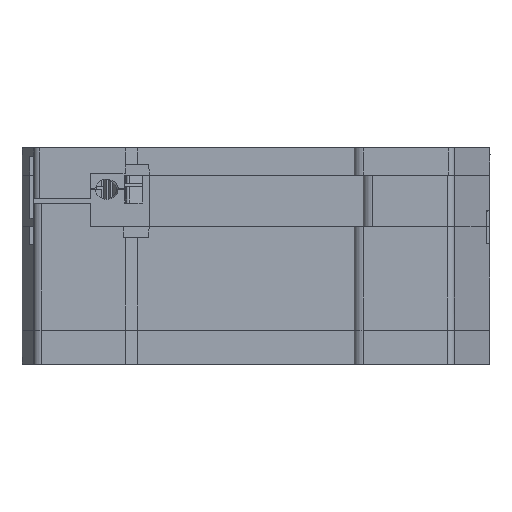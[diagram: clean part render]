
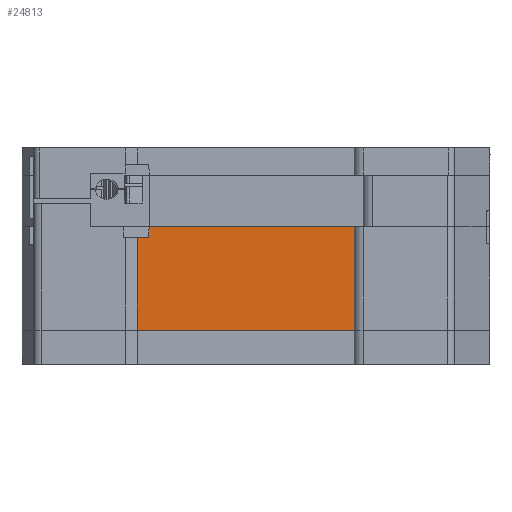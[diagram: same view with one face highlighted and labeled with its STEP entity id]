
A CAD part, front view. The second image highlights one B-rep face of the part: STEP entity #24813.
In plain terms, the highlighted planar face has unit normal (0, -1, 0).
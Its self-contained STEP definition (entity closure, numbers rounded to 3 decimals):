
#12513 = CARTESIAN_POINT ( 'NONE',  ( -37.344, -90.812, -17.1 ) ) ;
#12971 = CARTESIAN_POINT ( 'NONE',  ( -72.744, -90.812, -1.8 ) ) ;
#13147 = CARTESIAN_POINT ( 'NONE',  ( -37.344, -90.812, 0. ) ) ;
#13169 = CARTESIAN_POINT ( 'NONE',  ( -72.691, -90.812, 0. ) ) ;
#15926 = LINE ( 'NONE', #15928, #61453 ) ;
#15928 = CARTESIAN_POINT ( 'NONE',  ( -74.644, -90.812, -17.1 ) ) ;
#15932 = DIRECTION ( 'NONE',  ( -1., 0., 0. ) ) ;
#16844 = LINE ( 'NONE', #16858, #61140 ) ;
#16849 = LINE ( 'NONE', #16851, #61141 ) ;
#16851 = CARTESIAN_POINT ( 'NONE',  ( -74.644, -90.812, -3. ) ) ;
#16852 = DIRECTION ( 'NONE',  ( 0., 0., 1. ) ) ;
#16855 = LINE ( 'NONE', #16856, #61139 ) ;
#16856 = CARTESIAN_POINT ( 'NONE',  ( -37.344, -90.812, -3. ) ) ;
#16857 = DIRECTION ( 'NONE',  ( 0., 0., 1. ) ) ;
#16858 = CARTESIAN_POINT ( 'NONE',  ( -74.644, -90.812, 0. ) ) ;
#16859 = DIRECTION ( 'NONE',  ( -1., 0., 0. ) ) ;
#16860 = LINE ( 'NONE', #16861, #61137 ) ;
#16861 = CARTESIAN_POINT ( 'NONE',  ( -72.691, -90.812, 0. ) ) ;
#16862 = DIRECTION ( 'NONE',  ( -0.029, 0., -1. ) ) ;
#16863 = LINE ( 'NONE', #16864, #61136 ) ;
#16864 = CARTESIAN_POINT ( 'NONE',  ( -74.644, -90.812, -1.8 ) ) ;
#16865 = DIRECTION ( 'NONE',  ( -1., 0., 0. ) ) ;
#19790 = AXIS2_PLACEMENT_3D ( 'NONE', #55641, #55638, #55646 ) ;
#24813 = ADVANCED_FACE ( 'NONE', ( #55643 ), #55644, .T. ) ;
#25593 = EDGE_CURVE ( 'NONE', #45838, #49371, #15926, .T. ) ;
#28687 = EDGE_CURVE ( 'NONE', #49371, #49618, #16849, .T. ) ;
#28689 = EDGE_CURVE ( 'NONE', #45838, #46161, #16855, .T. ) ;
#28690 = EDGE_CURVE ( 'NONE', #46161, #46172, #16844, .T. ) ;
#28691 = EDGE_CURVE ( 'NONE', #46172, #46065, #16860, .T. ) ;
#28692 = EDGE_CURVE ( 'NONE', #46065, #49618, #16863, .T. ) ;
#32457 = ORIENTED_EDGE ( 'NONE', *, *, #28687, .F. ) ;
#32458 = ORIENTED_EDGE ( 'NONE', *, *, #28692, .T. ) ;
#32459 = ORIENTED_EDGE ( 'NONE', *, *, #28691, .T. ) ;
#32460 = ORIENTED_EDGE ( 'NONE', *, *, #28690, .T. ) ;
#32461 = ORIENTED_EDGE ( 'NONE', *, *, #28689, .T. ) ;
#32462 = ORIENTED_EDGE ( 'NONE', *, *, #25593, .F. ) ;
#45838 = VERTEX_POINT ( 'NONE', #12513 ) ;
#46065 = VERTEX_POINT ( 'NONE', #12971 ) ;
#46161 = VERTEX_POINT ( 'NONE', #13147 ) ;
#46172 = VERTEX_POINT ( 'NONE', #13169 ) ;
#48569 = EDGE_LOOP ( 'NONE', ( #32462, #32461, #32460, #32459, #32458, #32457 ) ) ;
#49371 = VERTEX_POINT ( 'NONE', #83115 ) ;
#49618 = VERTEX_POINT ( 'NONE', #83383 ) ;
#55638 = DIRECTION ( 'NONE',  ( 0., -1., 0. ) ) ;
#55641 = CARTESIAN_POINT ( 'NONE',  ( -74.644, -90.812, -3. ) ) ;
#55643 = FACE_OUTER_BOUND ( 'NONE', #48569, .T. ) ;
#55644 = PLANE ( 'NONE',  #19790 ) ;
#55646 = DIRECTION ( 'NONE',  ( 0., 0., -1. ) ) ;
#61136 = VECTOR ( 'NONE', #16865, 1000. ) ;
#61137 = VECTOR ( 'NONE', #16862, 1000. ) ;
#61139 = VECTOR ( 'NONE', #16857, 1000. ) ;
#61140 = VECTOR ( 'NONE', #16859, 1000. ) ;
#61141 = VECTOR ( 'NONE', #16852, 1000. ) ;
#61453 = VECTOR ( 'NONE', #15932, 1000. ) ;
#83115 = CARTESIAN_POINT ( 'NONE',  ( -74.644, -90.812, -17.1 ) ) ;
#83383 = CARTESIAN_POINT ( 'NONE',  ( -74.644, -90.812, -1.8 ) ) ;
